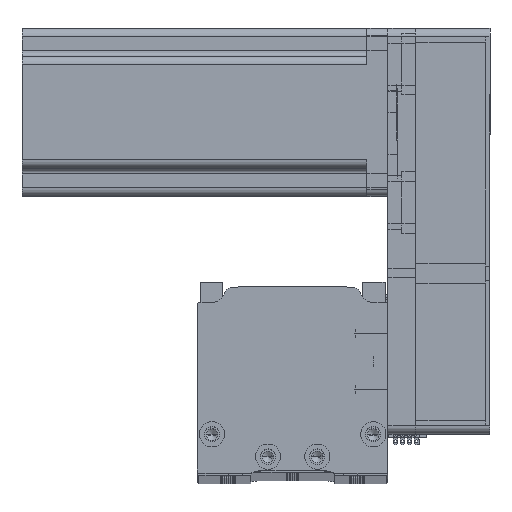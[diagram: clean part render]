
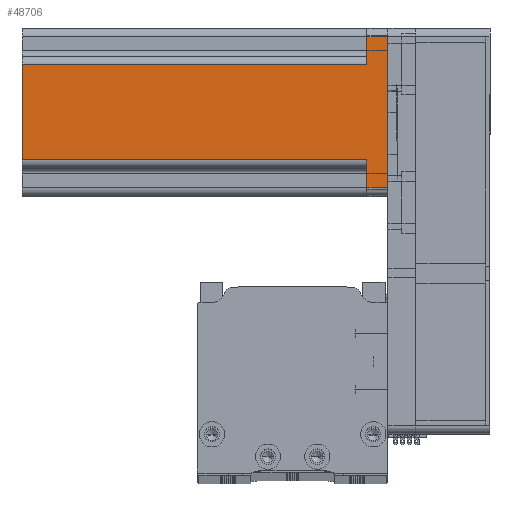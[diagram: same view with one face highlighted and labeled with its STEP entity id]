
A CAD part, top view. The second image highlights one B-rep face of the part: STEP entity #48706.
In plain terms, the highlighted planar face has unit normal (0, 0, 1) as drawn and (0, -1, 0) by its records, which use the part's own axes.
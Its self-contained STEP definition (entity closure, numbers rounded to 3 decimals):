
#1888 = VECTOR ( 'NONE', #3237, 1000. ) ;
#2477 = VECTOR ( 'NONE', #29425, 1000. ) ;
#3237 = DIRECTION ( 'NONE',  ( 1., 0., 0. ) ) ;
#3391 = EDGE_CURVE ( 'NONE', #8697, #9316, #55957, .T. ) ;
#4244 = DIRECTION ( 'NONE',  ( 1., 0., 0. ) ) ;
#6361 = VECTOR ( 'NONE', #11724, 1000. ) ;
#6883 = EDGE_CURVE ( 'NONE', #31978, #16411, #33387, .T. ) ;
#8565 = CARTESIAN_POINT ( 'NONE',  ( 27., -30., 130.7 ) ) ;
#8697 = VERTEX_POINT ( 'NONE', #36498 ) ;
#9316 = VERTEX_POINT ( 'NONE', #36197 ) ;
#10192 = EDGE_CURVE ( 'NONE', #58608, #13741, #37231, .T. ) ;
#10360 = VECTOR ( 'NONE', #4244, 1000. ) ;
#10427 = EDGE_CURVE ( 'NONE', #58608, #9316, #46617, .T. ) ;
#10843 = CARTESIAN_POINT ( 'NONE',  ( 17., -30., 7.5 ) ) ;
#11724 = DIRECTION ( 'NONE',  ( 0., 0., -1. ) ) ;
#13594 = DIRECTION ( 'NONE',  ( 0., 0., 1. ) ) ;
#13741 = VERTEX_POINT ( 'NONE', #48053 ) ;
#13909 = EDGE_CURVE ( 'NONE', #8697, #38398, #17431, .T. ) ;
#15947 = LINE ( 'NONE', #64201, #41260 ) ;
#16016 = CARTESIAN_POINT ( 'NONE',  ( -20., -30., 7.5 ) ) ;
#16411 = VERTEX_POINT ( 'NONE', #27538 ) ;
#16450 = VECTOR ( 'NONE', #41793, 1000. ) ;
#16823 = LINE ( 'NONE', #63575, #1888 ) ;
#17431 = LINE ( 'NONE', #64654, #2477 ) ;
#18591 = ORIENTED_EDGE ( 'NONE', *, *, #6883, .T. ) ;
#19369 = DIRECTION ( 'NONE',  ( 0., 1., 0. ) ) ;
#20559 = ORIENTED_EDGE ( 'NONE', *, *, #53101, .T. ) ;
#21464 = ORIENTED_EDGE ( 'NONE', *, *, #10427, .T. ) ;
#22355 = EDGE_CURVE ( 'NONE', #46772, #13741, #15947, .T. ) ;
#26099 = AXIS2_PLACEMENT_3D ( 'NONE', #49612, #19369, #54657 ) ;
#26261 = CARTESIAN_POINT ( 'NONE',  ( 20., -30., 7.5 ) ) ;
#27538 = CARTESIAN_POINT ( 'NONE',  ( 27., -30., 7.5 ) ) ;
#29399 = DIRECTION ( 'NONE',  ( 0., 0., 1. ) ) ;
#29425 = DIRECTION ( 'NONE',  ( 0., 0., -1. ) ) ;
#29868 = LINE ( 'NONE', #26261, #16450 ) ;
#31978 = VERTEX_POINT ( 'NONE', #42796 ) ;
#33387 = LINE ( 'NONE', #8565, #60143 ) ;
#36197 = CARTESIAN_POINT ( 'NONE',  ( -17., -30., 7.5 ) ) ;
#36498 = CARTESIAN_POINT ( 'NONE',  ( -27., -30., 7.5 ) ) ;
#37231 = LINE ( 'NONE', #44609, #10360 ) ;
#38398 = VERTEX_POINT ( 'NONE', #48072 ) ;
#39001 = ORIENTED_EDGE ( 'NONE', *, *, #10192, .F. ) ;
#41260 = VECTOR ( 'NONE', #29399, 1000. ) ;
#41793 = DIRECTION ( 'NONE',  ( -1., 0., 0. ) ) ;
#42009 = CARTESIAN_POINT ( 'NONE',  ( -17., -30., 130.7 ) ) ;
#42576 = VECTOR ( 'NONE', #61431, 1000. ) ;
#42796 = CARTESIAN_POINT ( 'NONE',  ( 27., -30., 0. ) ) ;
#44291 = PLANE ( 'NONE',  #26099 ) ;
#44609 = CARTESIAN_POINT ( 'NONE',  ( 30., -30., 130.7 ) ) ;
#45481 = ORIENTED_EDGE ( 'NONE', *, *, #13909, .T. ) ;
#46617 = LINE ( 'NONE', #42009, #6361 ) ;
#46772 = VERTEX_POINT ( 'NONE', #10843 ) ;
#48053 = CARTESIAN_POINT ( 'NONE',  ( 17., -30., 130.7 ) ) ;
#48072 = CARTESIAN_POINT ( 'NONE',  ( -27., -30., 0. ) ) ;
#48706 = ADVANCED_FACE ( 'NONE', ( #64751 ), #44291, .F. ) ;
#49612 = CARTESIAN_POINT ( 'NONE',  ( 30., -30., 130.7 ) ) ;
#53101 = EDGE_CURVE ( 'NONE', #16411, #46772, #29868, .T. ) ;
#53143 = ORIENTED_EDGE ( 'NONE', *, *, #3391, .F. ) ;
#54419 = ORIENTED_EDGE ( 'NONE', *, *, #57708, .T. ) ;
#54657 = DIRECTION ( 'NONE',  ( -1., 0., 0. ) ) ;
#55658 = ORIENTED_EDGE ( 'NONE', *, *, #22355, .T. ) ;
#55768 = CARTESIAN_POINT ( 'NONE',  ( -17., -30., 130.7 ) ) ;
#55957 = LINE ( 'NONE', #16016, #42576 ) ;
#57708 = EDGE_CURVE ( 'NONE', #38398, #31978, #16823, .T. ) ;
#58608 = VERTEX_POINT ( 'NONE', #55768 ) ;
#60143 = VECTOR ( 'NONE', #13594, 1000. ) ;
#61431 = DIRECTION ( 'NONE',  ( 1., 0., 0. ) ) ;
#62231 = EDGE_LOOP ( 'NONE', ( #39001, #21464, #53143, #45481, #54419, #18591, #20559, #55658 ) ) ;
#63575 = CARTESIAN_POINT ( 'NONE',  ( 30., -30., 0. ) ) ;
#64201 = CARTESIAN_POINT ( 'NONE',  ( 17., -30., 130.7 ) ) ;
#64654 = CARTESIAN_POINT ( 'NONE',  ( -27., -30., 130.7 ) ) ;
#64751 = FACE_OUTER_BOUND ( 'NONE', #62231, .T. ) ;
